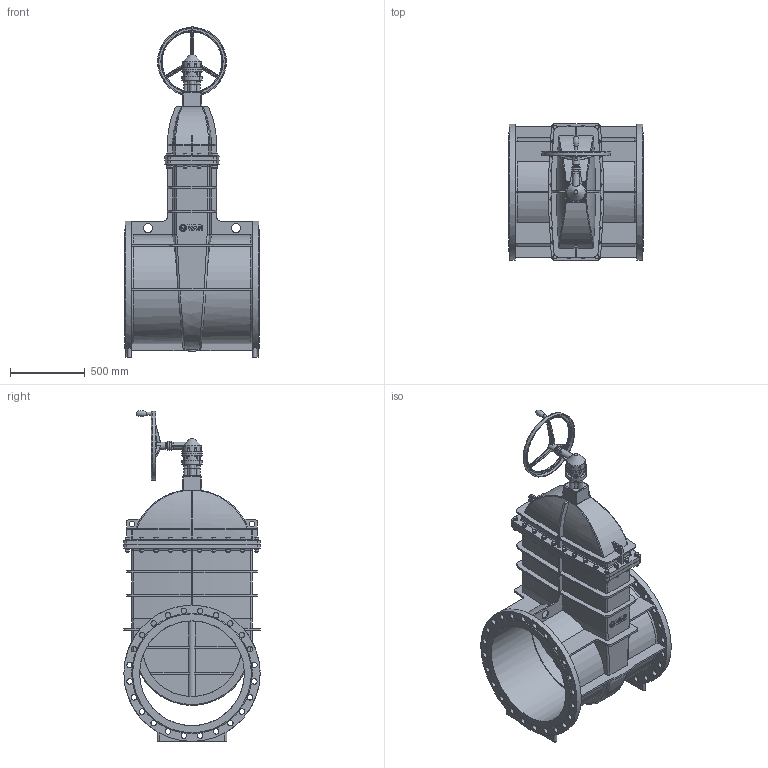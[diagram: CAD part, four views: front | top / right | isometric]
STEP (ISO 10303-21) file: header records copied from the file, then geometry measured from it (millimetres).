
FILE_DESCRIPTION(('STEP AP242'), '1');
FILE_NAME('青溻桄赅', '', ('UNSPECIFIED'), ('UNSPECIFIED'), 'C3D Converter', 'C3D Toolkit', '');
FILE_SCHEMA(('AP242_MANAGED_MODEL_BASED_3D_ENGINEERING_MIM_LF { 1 0 10303 442 1 1 4 }'));
Length unit declared in the file: millimetre
Assembly tree (171 placements, depth 2):
  (unnamed)
    (unnamed)
    (unnamed)
    (unnamed)
    (unnamed)  x2
    (unnamed)
    (unnamed)
    (unnamed)
    (unnamed)
    (unnamed)
    (unnamed)  x24
    (unnamed)  x48
    (unnamed)  x48
    (unnamed)  x24
    (unnamed)  x4
    (unnamed)  x12
    (unnamed)
Bounding box: 900 x 912.5 x 2209.82 mm (x, y, z)
Volume: 119549023.7 mm3; surface area: 14235352.5 mm2
Topology: 177 solids, 177 shells, 2962 faces, 6880 edges, 4320 vertices
Faces by surface type: plane 1591, cylinder 706, cone 364, extrusion 135, bspline 86, torus 80
Full cylindrical faces by diameter (mm): 3 x12, 4 x36, 6 x7, 7 x12, 8 x12, 12 x8, 13 x4, 13.835 x24, 16 x24, 17.5 x48, 18 x76, 20 x5, 24 x24, 26 x9, 28 x48, 36 x2, 37 x48, 40 x1, 47.045 x1, 50 x1, 52 x1, 52.333 x5, 60 x4, 109.912 x2, 135.463 x3, 400 x1, 410 x1, 450 x1, 460 x1, 660.5 x2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
Entity records: 71749 total; most frequent: CARTESIAN_POINT 33345, ORIENTED_EDGE 6448, DIRECTION 6255, EDGE_CURVE 3224, AXIS2_PLACEMENT_3D 2396, VERTEX_POINT 2254, EDGE_LOOP 1903, VECTOR 1463
